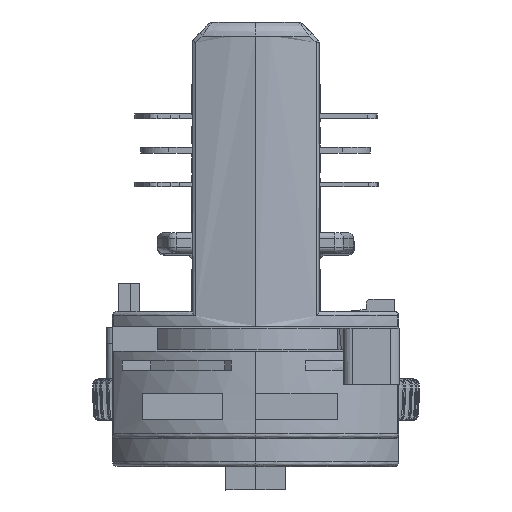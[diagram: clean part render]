
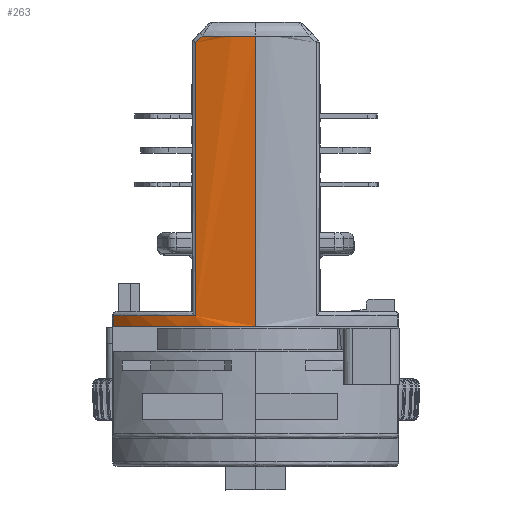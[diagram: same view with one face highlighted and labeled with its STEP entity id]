
A CAD part, left-side view. The second image highlights one B-rep face of the part: STEP entity #263.
In plain terms, the highlighted free-form (B-spline) face has degree [2, 1] with [3, 2] control points.
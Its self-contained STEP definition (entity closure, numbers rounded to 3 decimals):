
#263=ADVANCED_FACE('',(#2093),#28909,.T.);
#2093=FACE_OUTER_BOUND('',#3927,.T.);
#3927=EDGE_LOOP('',(#6678,#6679,#6680,#6681,#6682,#6683,#6684));
#6678=ORIENTED_EDGE('',*,*,#16003,.T.);
#6679=ORIENTED_EDGE('',*,*,#15805,.T.);
#6680=ORIENTED_EDGE('',*,*,#15807,.T.);
#6681=ORIENTED_EDGE('',*,*,#15738,.T.);
#6682=ORIENTED_EDGE('',*,*,#15739,.T.);
#6683=ORIENTED_EDGE('',*,*,#15736,.F.);
#6684=ORIENTED_EDGE('',*,*,#15607,.F.);
#15607=EDGE_CURVE('',#25128,#25129,#19993,.T.);
#15736=EDGE_CURVE('',#25129,#25230,#20058,.T.);
#15738=EDGE_CURVE('',#25234,#25235,#20060,.T.);
#15739=EDGE_CURVE('',#25235,#25230,#20061,.T.);
#15805=EDGE_CURVE('',#25232,#25233,#20087,.T.);
#15807=EDGE_CURVE('',#25233,#25234,#21473,.T.);
#16003=EDGE_CURVE('',#25128,#25232,#20160,.T.);
#19993=(
BOUNDED_CURVE()
B_SPLINE_CURVE(2,(#40979,#40980,#40981),.UNSPECIFIED.,.F.,.F.)
B_SPLINE_CURVE_WITH_KNOTS((3,3),(-18.274,0.),.UNSPECIFIED.)
CURVE()
GEOMETRIC_REPRESENTATION_ITEM()
RATIONAL_B_SPLINE_CURVE((1.,0.911,1.))
REPRESENTATION_ITEM('')
);
#20058=(
BOUNDED_CURVE()
B_SPLINE_CURVE(1,(#41331,#41332),.UNSPECIFIED.,.F.,.F.)
B_SPLINE_CURVE_WITH_KNOTS((2,2),(0.427,1.527),
 .UNSPECIFIED.)
CURVE()
GEOMETRIC_REPRESENTATION_ITEM()
RATIONAL_B_SPLINE_CURVE((1.,1.))
REPRESENTATION_ITEM('')
);
#20060=(
BOUNDED_CURVE()
B_SPLINE_CURVE(1,(#41336,#41337),.UNSPECIFIED.,.F.,.F.)
B_SPLINE_CURVE_WITH_KNOTS((2,2),(0.,29.193),.UNSPECIFIED.)
CURVE()
GEOMETRIC_REPRESENTATION_ITEM()
RATIONAL_B_SPLINE_CURVE((1.,1.))
REPRESENTATION_ITEM('')
);
#20061=(
BOUNDED_CURVE()
B_SPLINE_CURVE(2,(#41338,#41339,#41340),.UNSPECIFIED.,.F.,.F.)
B_SPLINE_CURVE_WITH_KNOTS((3,3),(0.,10.837),.UNSPECIFIED.)
CURVE()
GEOMETRIC_REPRESENTATION_ITEM()
RATIONAL_B_SPLINE_CURVE((1.,0.966,1.))
REPRESENTATION_ITEM('')
);
#20087=(
BOUNDED_CURVE()
B_SPLINE_CURVE(2,(#41540,#41541,#41542),.UNSPECIFIED.,.F.,.F.)
B_SPLINE_CURVE_WITH_KNOTS((3,3),(0.,5.855),.UNSPECIFIED.)
CURVE()
GEOMETRIC_REPRESENTATION_ITEM()
RATIONAL_B_SPLINE_CURVE((1.,0.99,1.))
REPRESENTATION_ITEM('')
);
#20160=(
BOUNDED_CURVE()
B_SPLINE_CURVE(1,(#42113,#42114),.UNSPECIFIED.,.F.,.F.)
B_SPLINE_CURVE_WITH_KNOTS((2,2),(-31.,0.),.UNSPECIFIED.)
CURVE()
GEOMETRIC_REPRESENTATION_ITEM()
RATIONAL_B_SPLINE_CURVE((1.,1.))
REPRESENTATION_ITEM('')
);
#21473=B_SPLINE_CURVE_WITH_KNOTS('',3,(#41549,#41550,#41551,#41552),
 .UNSPECIFIED.,.F.,.F.,(4,4),(-1.038,0.),.UNSPECIFIED.);
#25128=VERTEX_POINT('',#38569);
#25129=VERTEX_POINT('',#38570);
#25230=VERTEX_POINT('',#38671);
#25232=VERTEX_POINT('',#38673);
#25233=VERTEX_POINT('',#38674);
#25234=VERTEX_POINT('',#38675);
#25235=VERTEX_POINT('',#38676);
#28909=(
BOUNDED_SURFACE()
B_SPLINE_SURFACE(2,1,((#32920,#32921),(#32922,#32923),(#32924,#32925)),
 .UNSPECIFIED.,.F.,.F.,.F.)
B_SPLINE_SURFACE_WITH_KNOTS((3,3),(2,2),(63.525,80.622),
(3.417,34.417),.UNSPECIFIED.)
GEOMETRIC_REPRESENTATION_ITEM()
RATIONAL_B_SPLINE_SURFACE(((1.,1.),(0.842,
0.842),(0.854,0.854)))
REPRESENTATION_ITEM('')
SURFACE()
);
#32920=CARTESIAN_POINT('',(-331.043,14.719,-1.525));
#32921=CARTESIAN_POINT('',(-331.043,14.719,-32.525));
#32922=CARTESIAN_POINT('',(-331.043,23.856,-1.525));
#32923=CARTESIAN_POINT('',(-331.043,23.856,-32.525));
#32924=CARTESIAN_POINT('',(-324.186,29.894,-1.525));
#32925=CARTESIAN_POINT('',(-324.186,29.894,-32.525));
#38569=CARTESIAN_POINT('',(-331.043,14.719,-32.525));
#38570=CARTESIAN_POINT('',(-324.186,29.894,-32.525));
#38671=CARTESIAN_POINT('',(-324.186,29.894,-31.425));
#38673=CARTESIAN_POINT('',(-331.043,14.719,-1.525));
#38674=CARTESIAN_POINT('',(-330.213,20.454,-1.525));
#38675=CARTESIAN_POINT('',(-329.983,21.179,-2.232));
#38676=CARTESIAN_POINT('',(-329.983,21.179,-31.425));
#40979=CARTESIAN_POINT('',(-331.043,14.719,-32.525));
#40980=CARTESIAN_POINT('',(-331.043,23.856,-32.525));
#40981=CARTESIAN_POINT('',(-324.186,29.894,-32.525));
#41331=CARTESIAN_POINT('',(-324.186,29.894,-32.525));
#41332=CARTESIAN_POINT('',(-324.186,29.894,-31.425));
#41336=CARTESIAN_POINT('',(-329.983,21.179,-2.232));
#41337=CARTESIAN_POINT('',(-329.983,21.179,-31.425));
#41338=CARTESIAN_POINT('',(-329.983,21.179,-31.425));
#41339=CARTESIAN_POINT('',(-328.252,26.313,-31.425));
#41340=CARTESIAN_POINT('',(-324.186,29.894,-31.425));
#41540=CARTESIAN_POINT('',(-331.043,14.719,-1.525));
#41541=CARTESIAN_POINT('',(-331.043,17.646,-1.525));
#41542=CARTESIAN_POINT('',(-330.213,20.454,-1.525));
#41549=CARTESIAN_POINT('',(-330.213,20.454,-1.525));
#41550=CARTESIAN_POINT('',(-330.141,20.696,-1.761));
#41551=CARTESIAN_POINT('',(-330.065,20.938,-1.997));
#41552=CARTESIAN_POINT('',(-329.983,21.179,-2.232));
#42113=CARTESIAN_POINT('',(-331.043,14.719,-32.525));
#42114=CARTESIAN_POINT('',(-331.043,14.719,-1.525));
